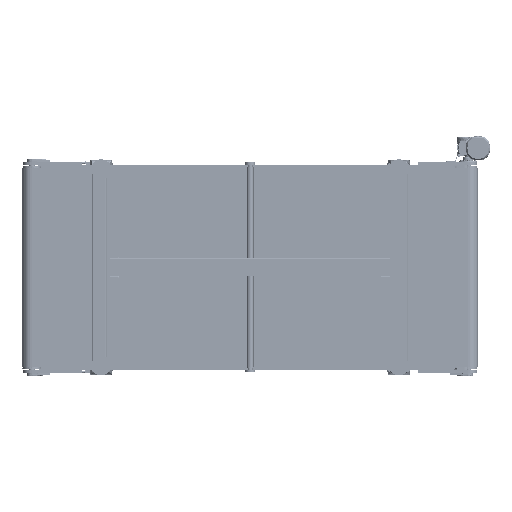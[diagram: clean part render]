
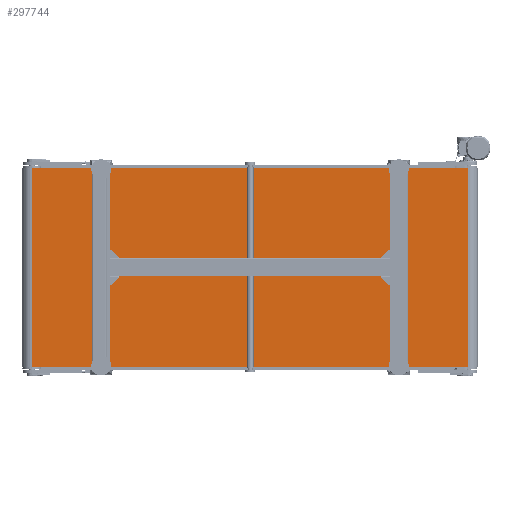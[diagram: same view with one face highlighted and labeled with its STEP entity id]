
A CAD part, front view. The second image highlights one B-rep face of the part: STEP entity #297744.
In plain terms, the highlighted planar face has unit normal (0, -1, 0).
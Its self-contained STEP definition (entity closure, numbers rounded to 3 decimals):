
#6916 = VERTEX_POINT ( 'NONE', #143920 ) ;
#15217 = ORIENTED_EDGE ( 'NONE', *, *, #277022, .T. ) ;
#20478 = DIRECTION ( 'NONE',  ( 0., 0., -1. ) ) ;
#26616 = VECTOR ( 'NONE', #282908, 1000. ) ;
#40404 = VECTOR ( 'NONE', #102038, 1000. ) ;
#42322 = AXIS2_PLACEMENT_3D ( 'NONE', #63767, #259651, #234009 ) ;
#53758 = CARTESIAN_POINT ( 'NONE',  ( 1100., -49.5, 500. ) ) ;
#54845 = EDGE_CURVE ( 'NONE', #6916, #156151, #123239, .T. ) ;
#63767 = CARTESIAN_POINT ( 'NONE',  ( -1100., -49.5, 500. ) ) ;
#87533 = DIRECTION ( 'NONE',  ( 1., 0., 0. ) ) ;
#100452 = LINE ( 'NONE', #53758, #40404 ) ;
#102038 = DIRECTION ( 'NONE',  ( 0., 0., -1. ) ) ;
#105938 = ORIENTED_EDGE ( 'NONE', *, *, #54845, .T. ) ;
#107836 = VECTOR ( 'NONE', #87533, 1000. ) ;
#111814 = ORIENTED_EDGE ( 'NONE', *, *, #267760, .F. ) ;
#118834 = ORIENTED_EDGE ( 'NONE', *, *, #185114, .F. ) ;
#123239 = LINE ( 'NONE', #147362, #221155 ) ;
#143920 = CARTESIAN_POINT ( 'NONE',  ( -1100., -49.5, 500. ) ) ;
#147362 = CARTESIAN_POINT ( 'NONE',  ( -1100., -49.5, 500. ) ) ;
#156151 = VERTEX_POINT ( 'NONE', #156782 ) ;
#156782 = CARTESIAN_POINT ( 'NONE',  ( -1100., -49.5, -500. ) ) ;
#161748 = FACE_OUTER_BOUND ( 'NONE', #289417, .T. ) ;
#184960 = CARTESIAN_POINT ( 'NONE',  ( -1100., -49.5, -500. ) ) ;
#185114 = EDGE_CURVE ( 'NONE', #220108, #276505, #100452, .T. ) ;
#205190 = PLANE ( 'NONE',  #42322 ) ;
#209565 = CARTESIAN_POINT ( 'NONE',  ( -1100., -49.5, 500. ) ) ;
#220108 = VERTEX_POINT ( 'NONE', #244812 ) ;
#221155 = VECTOR ( 'NONE', #20478, 1000. ) ;
#234009 = DIRECTION ( 'NONE',  ( 0., 0., 1. ) ) ;
#244812 = CARTESIAN_POINT ( 'NONE',  ( 1100., -49.5, 500. ) ) ;
#259651 = DIRECTION ( 'NONE',  ( 0., 1., 0. ) ) ;
#267760 = EDGE_CURVE ( 'NONE', #6916, #220108, #304378, .T. ) ;
#276505 = VERTEX_POINT ( 'NONE', #299459 ) ;
#277022 = EDGE_CURVE ( 'NONE', #156151, #276505, #284491, .T. ) ;
#282908 = DIRECTION ( 'NONE',  ( 1., 0., 0. ) ) ;
#284491 = LINE ( 'NONE', #184960, #26616 ) ;
#289417 = EDGE_LOOP ( 'NONE', ( #15217, #118834, #111814, #105938 ) ) ;
#297744 = ADVANCED_FACE ( 'NONE', ( #161748 ), #205190, .F. ) ;
#299459 = CARTESIAN_POINT ( 'NONE',  ( 1100., -49.5, -500. ) ) ;
#304378 = LINE ( 'NONE', #209565, #107836 ) ;
